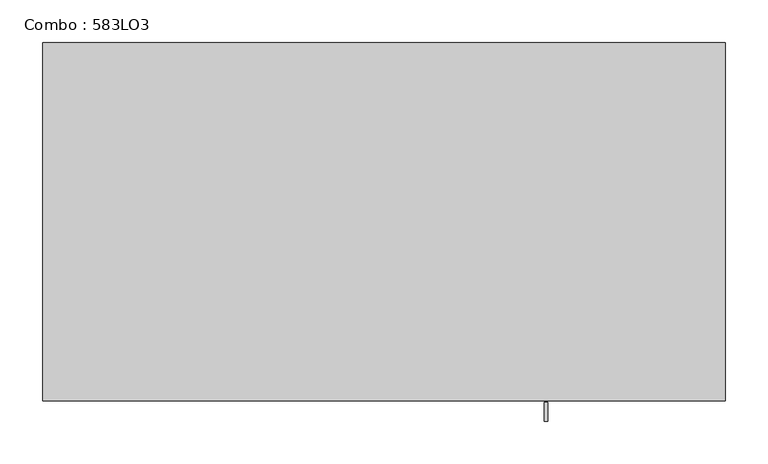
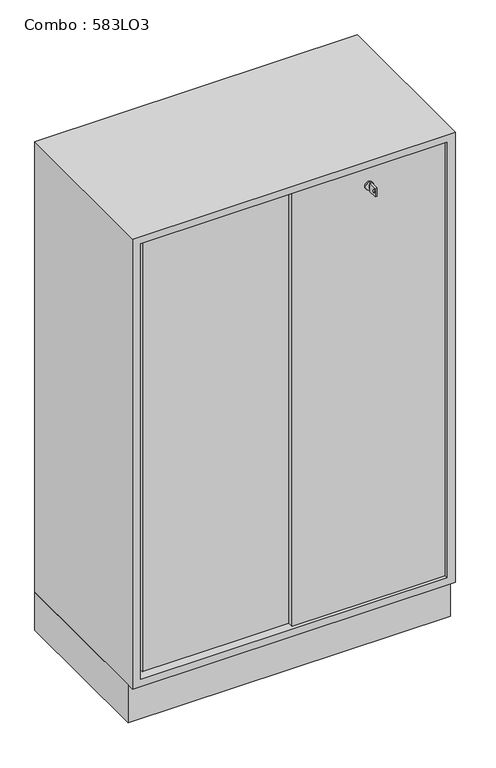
"""IFC4 building model written with IfcOpenShell, lengths in millimetres: furniture geometry, Combo : 583LO3."""

from ifc_helpers import new_model, si_unit, point, frame, frame_2d, origin, origin_with_axes, place, context, project, spatial, polyline, circle_curve, trimmed, segment, composite_curve, outline, extrude, faceted_brep, source, transform, mapped, element, save


def combo_583lo3_e871488f(model_context):
    return source(origin(), model_context, "Body", "SolidModel", [
        extrude(outline(polyline([(-400.0, -400.0), (-400.0, 0.0), (400.0, 0.0), (400.0, -400.0), (-400.0, -400.0)])), origin_with_axes(), (0.0, 0.0, 1.0), 100.0),
        extrude(outline(composite_curve([segment(trimmed(circle_curve(frame_2d((1210.0, 190.0)), 10.0), [point((1210.0, 180.0))], [point((1210.0, 200.0))], False, "CARTESIAN"), True, "CONTINUOUS"), segment(trimmed(circle_curve(frame_2d((1210.0, 190.0)), 10.0), [point((1210.0, 200.0))], [point((1210.0, 180.0))], False, "CARTESIAN"), True, "CONTINUOUS")], self_intersect=False)), frame((0.0, -416.0, 0.0), z_axis=(0.0, 1.0, 0.0), x_axis=(0.0, 0.0, 1.0)), (0.0, 0.0, 1.0), 4.0),
        extrude(outline(polyline([(-444.0, 1199.014113), (-444.0, 1221.0), (-422.0, 1221.0), (-422.0, 1199.014113), (-444.0, 1199.014113)]), holes=[composite_curve([segment(trimmed(circle_curve(frame_2d((-437.75, 1210.0070565)), 3.2230706), [point((-437.75, 1213.2301271))], [point((-437.75, 1206.7839859))], True, "CARTESIAN"), True, "CONTINUOUS"), segment(trimmed(circle_curve(frame_2d((-437.75, 1210.0070565)), 3.2230706), [point((-437.75, 1206.7839859))], [point((-437.75, 1213.2301271))], True, "CARTESIAN"), True, "CONTINUOUS")], self_intersect=False)]), frame((188.0, 0.0, 0.0), z_axis=(1.0, 0.0, 0.0), x_axis=(0.0, 1.0, 0.0)), (0.0, 0.0, 1.0), 4.0416064),
        extrude(outline(polyline([(191.0416064, -422.0), (189.0, -422.0), (189.0, -416.0), (191.0416064, -416.0), (191.0416064, -422.0)])), frame((0.0, 0.0, 1206.014113), z_axis=(0.0, 0.0, 1.0), x_axis=(1.0, 0.0, 0.0)), (0.0, 0.0, 1.0), 7.985887),
        extrude(outline(polyline([(-378.0478528, -398.0), (-380.0, -398.0), (-380.0, -386.0), (380.0, -386.0), (380.0, -412.0), (0.0, -412.0), (0.0, -400.0), (8.9521472, -400.0), (8.9521472, -398.0), (-361.0478528, -398.0), (-363.0478528, -398.0), (-363.0478528, -388.0), (-378.0478528, -388.0), (-378.0478528, -398.0)])), frame((0.0, 0.0, 120.0), z_axis=(0.0, 0.0, 1.0), x_axis=(1.0, 0.0, 0.0)), (0.0, 0.0, 1.0), 1140.0),
        faceted_brep([(400.0, 0.0, 1280.0), (-400.0, 0.0, 1280.0), (-400.0, -420.0, 1280.0), (400.0, -420.0, 1280.0), (-400.0, 0.0, 100.0), (400.0, 0.0, 100.0), (400.0, -420.0, 100.0), (-400.0, -420.0, 100.0), (-380.0, -420.0, 1260.0), (380.0, -420.0, 1260.0), (380.0, -420.0, 120.0), (-380.0, -420.0, 120.0), (-380.0, -386.0, 1260.0), (380.0, -386.0, 1260.0), (-380.0, -386.0, 120.0), (380.0, -386.0, 120.0)], [[[0, 1, 2, 3]], [[4, 5, 6, 7]], [[1, 0, 5, 4]], [[2, 1, 4, 7]], [[3, 2, 7, 6], [8, 9, 10, 11]], [[0, 3, 6, 5]], [[12, 13, 9, 8]], [[14, 11, 10, 15]], [[9, 13, 15, 10]], [[12, 8, 11, 14]], [[13, 12, 14, 15]]]),
    ])


if __name__ == "__main__":
    model = new_model("IFC4")
    model_context = context("Model", 3, world=origin())
    ifc_project = project(units=[si_unit("LENGTHUNIT", "METRE", prefix="MILLI")], contexts=[model_context])
    site = spatial("IfcSite", under=ifc_project)
    building = spatial("IfcBuilding", under=site)
    placement = place(None, origin())
    combo_583lo3_shape = combo_583lo3_e871488f(model_context)
    element("IfcFurniture", 1, ObjectType="Combo : 583LO3", at=placement, inside=building, context=model_context, shape_type="MappedRepresentation", body=[
        mapped(combo_583lo3_shape, transform((0.0, 0.0, 0.0), x_axis=(1.0, 0.0, 0.0), y_axis=(0.0, 1.0, 0.0), z_axis=(0.0, 0.0, 1.0))),
    ])
    save(model, "model.ifc")
